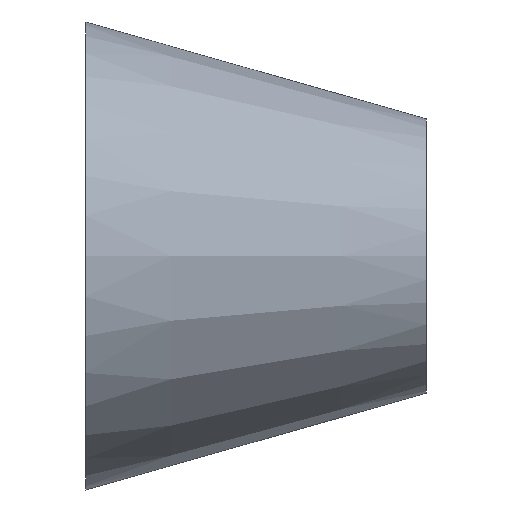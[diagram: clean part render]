
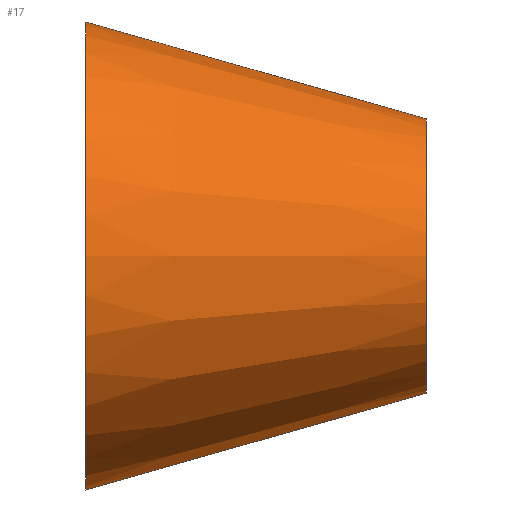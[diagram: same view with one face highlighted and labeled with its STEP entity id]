
A CAD part, front view. The second image highlights one B-rep face of the part: STEP entity #17.
In plain terms, the highlighted conical face has half-angle 15.871 degrees and reference radius 35 mm.
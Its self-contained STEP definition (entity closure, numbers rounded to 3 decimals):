
#17 = ADVANCED_FACE('',(#18),#31,.T.);
#18 = FACE_BOUND('',#19,.T.);
#19 = EDGE_LOOP('',(#20,#54,#74,#101));
#20 = ORIENTED_EDGE('',*,*,#21,.T.);
#21 = EDGE_CURVE('',#22,#22,#24,.T.);
#22 = VERTEX_POINT('',#23);
#23 = CARTESIAN_POINT('',(0.,35.,0.));
#24 = SURFACE_CURVE('',#25,(#30,#42),.PCURVE_S1.);
#25 = CIRCLE('',#26,35.);
#26 = AXIS2_PLACEMENT_3D('',#27,#28,#29);
#27 = CARTESIAN_POINT('',(0.,0.,0.));
#28 = DIRECTION('',(1.,0.,0.));
#29 = DIRECTION('',(0.,1.,0.));
#30 = PCURVE('',#31,#36);
#31 = CONICAL_SURFACE('',#32,35.,0.277);
#32 = AXIS2_PLACEMENT_3D('',#33,#34,#35);
#33 = CARTESIAN_POINT('',(0.,0.,0.));
#34 = DIRECTION('',(-1.,-0.,-0.));
#35 = DIRECTION('',(0.,1.,0.));
#36 = DEFINITIONAL_REPRESENTATION('',(#37),#41);
#37 = LINE('',#38,#39);
#38 = CARTESIAN_POINT('',(-0.,-0.));
#39 = VECTOR('',#40,1.);
#40 = DIRECTION('',(-1.,-0.));
#41 = ( GEOMETRIC_REPRESENTATION_CONTEXT(2) 
PARAMETRIC_REPRESENTATION_CONTEXT() REPRESENTATION_CONTEXT('2D SPACE',''
  ) );
#42 = PCURVE('',#43,#48);
#43 = PLANE('',#44);
#44 = AXIS2_PLACEMENT_3D('',#45,#46,#47);
#45 = CARTESIAN_POINT('',(0.,0.,0.));
#46 = DIRECTION('',(1.,0.,0.));
#47 = DIRECTION('',(0.,1.,0.));
#48 = DEFINITIONAL_REPRESENTATION('',(#49),#53);
#49 = CIRCLE('',#50,35.);
#50 = AXIS2_PLACEMENT_2D('',#51,#52);
#51 = CARTESIAN_POINT('',(0.,0.));
#52 = DIRECTION('',(1.,0.));
#53 = ( GEOMETRIC_REPRESENTATION_CONTEXT(2) 
PARAMETRIC_REPRESENTATION_CONTEXT() REPRESENTATION_CONTEXT('2D SPACE',''
  ) );
#54 = ORIENTED_EDGE('',*,*,#55,.T.);
#55 = EDGE_CURVE('',#22,#56,#58,.T.);
#56 = VERTEX_POINT('',#57);
#57 = CARTESIAN_POINT('',(51.,20.5,0.));
#58 = SEAM_CURVE('',#59,(#62,#68),.PCURVE_S1.);
#59 = B_SPLINE_CURVE_WITH_KNOTS('',1,(#60,#61),.UNSPECIFIED.,.F.,.F.,(2,
    2),(0.,1.),.PIECEWISE_BEZIER_KNOTS.);
#60 = CARTESIAN_POINT('',(0.,35.,0.));
#61 = CARTESIAN_POINT('',(51.,20.5,0.));
#62 = PCURVE('',#31,#63);
#63 = DEFINITIONAL_REPRESENTATION('',(#64),#67);
#64 = B_SPLINE_CURVE_WITH_KNOTS('',1,(#65,#66),.UNSPECIFIED.,.F.,.F.,(2,
    2),(0.,1.),.PIECEWISE_BEZIER_KNOTS.);
#65 = CARTESIAN_POINT('',(-6.283,0.));
#66 = CARTESIAN_POINT('',(-6.283,-51.));
#67 = ( GEOMETRIC_REPRESENTATION_CONTEXT(2) 
PARAMETRIC_REPRESENTATION_CONTEXT() REPRESENTATION_CONTEXT('2D SPACE',''
  ) );
#68 = PCURVE('',#31,#69);
#69 = DEFINITIONAL_REPRESENTATION('',(#70),#73);
#70 = B_SPLINE_CURVE_WITH_KNOTS('',1,(#71,#72),.UNSPECIFIED.,.F.,.F.,(2,
    2),(0.,1.),.PIECEWISE_BEZIER_KNOTS.);
#71 = CARTESIAN_POINT('',(0.,0.));
#72 = CARTESIAN_POINT('',(0.,-51.));
#73 = ( GEOMETRIC_REPRESENTATION_CONTEXT(2) 
PARAMETRIC_REPRESENTATION_CONTEXT() REPRESENTATION_CONTEXT('2D SPACE',''
  ) );
#74 = ORIENTED_EDGE('',*,*,#75,.F.);
#75 = EDGE_CURVE('',#56,#56,#76,.T.);
#76 = SURFACE_CURVE('',#77,(#82,#89),.PCURVE_S1.);
#77 = CIRCLE('',#78,20.5);
#78 = AXIS2_PLACEMENT_3D('',#79,#80,#81);
#79 = CARTESIAN_POINT('',(51.,0.,0.));
#80 = DIRECTION('',(1.,0.,0.));
#81 = DIRECTION('',(0.,1.,0.));
#82 = PCURVE('',#31,#83);
#83 = DEFINITIONAL_REPRESENTATION('',(#84),#88);
#84 = LINE('',#85,#86);
#85 = CARTESIAN_POINT('',(-0.,-51.));
#86 = VECTOR('',#87,1.);
#87 = DIRECTION('',(-1.,-0.));
#88 = ( GEOMETRIC_REPRESENTATION_CONTEXT(2) 
PARAMETRIC_REPRESENTATION_CONTEXT() REPRESENTATION_CONTEXT('2D SPACE',''
  ) );
#89 = PCURVE('',#90,#95);
#90 = PLANE('',#91);
#91 = AXIS2_PLACEMENT_3D('',#92,#93,#94);
#92 = CARTESIAN_POINT('',(51.,0.,0.));
#93 = DIRECTION('',(1.,0.,0.));
#94 = DIRECTION('',(0.,1.,0.));
#95 = DEFINITIONAL_REPRESENTATION('',(#96),#100);
#96 = CIRCLE('',#97,20.5);
#97 = AXIS2_PLACEMENT_2D('',#98,#99);
#98 = CARTESIAN_POINT('',(0.,0.));
#99 = DIRECTION('',(1.,0.));
#100 = ( GEOMETRIC_REPRESENTATION_CONTEXT(2) 
PARAMETRIC_REPRESENTATION_CONTEXT() REPRESENTATION_CONTEXT('2D SPACE',''
  ) );
#101 = ORIENTED_EDGE('',*,*,#55,.F.);
